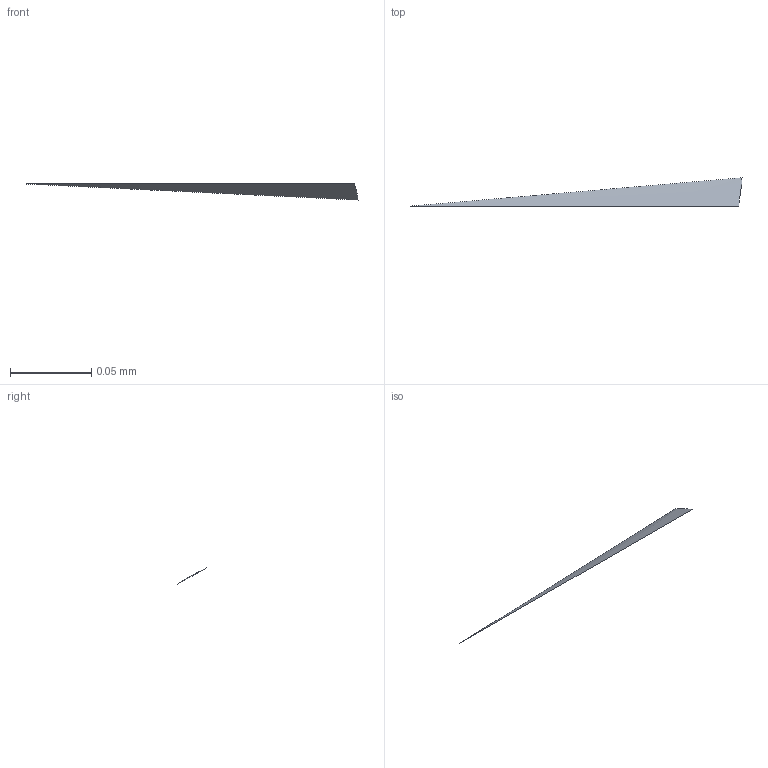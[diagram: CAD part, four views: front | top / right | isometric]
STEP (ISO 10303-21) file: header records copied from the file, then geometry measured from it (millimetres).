
FILE_DESCRIPTION(/* description */ ('STEP AP242 Edition 2','CAx-IF Rec.Pracs.---Representation and Presentation of Product Manufacturing Information (PMI)---4.0---2014-10-13','CAx-IF Rec.Pracs.---3D Tessellated Geometry---0.4---2014-09-14','2;1','CAx-IF Rec.Pracs.---User Defined Attributes---1.5---2016-08-15'),/* implementation_level */ '2;1');
FILE_NAME(/* name */ 'Assembly 1 - Part 59',/* time_stamp */ '2026-03-29T21:14:58Z',/* author */ (''),/* organization */ (''),/* preprocessor_version */ 'ST-DEVELOPER v20',/* originating_system */ 'ONSHAPE BY PTC INC, 1.212',/* authorisation */ ' ');
FILE_SCHEMA (('AP242_MANAGED_MODEL_BASED_3D_ENGINEERING_MIM_LF { 1 0 10303 442 3 1 4 }'));
Length unit declared in the file: metre
Products named in the file (1): Part 59
Bounding box: 0.2 x 0.02 x 0.01 mm (x, y, z)
Surface area: 0 mm2 (no closed solid volume)
Topology: 0 solids, 1 shells, 1 faces, 0 edges, 0 vertices
Faces by surface type: other 1
Entity records: 31 total; most frequent: DIRECTION 2, SHAPE_REPRESENTATION_RELATIONSHIP 1, TESSELLATED_SHAPE_REPRESENTATION 1, STYLED_ITEM 1, PRESENTATION_STYLE_ASSIGNMENT 1, SURFACE_STYLE_USAGE 1, SURFACE_SIDE_STYLE 1, SURFACE_STYLE_FILL_AREA 1
